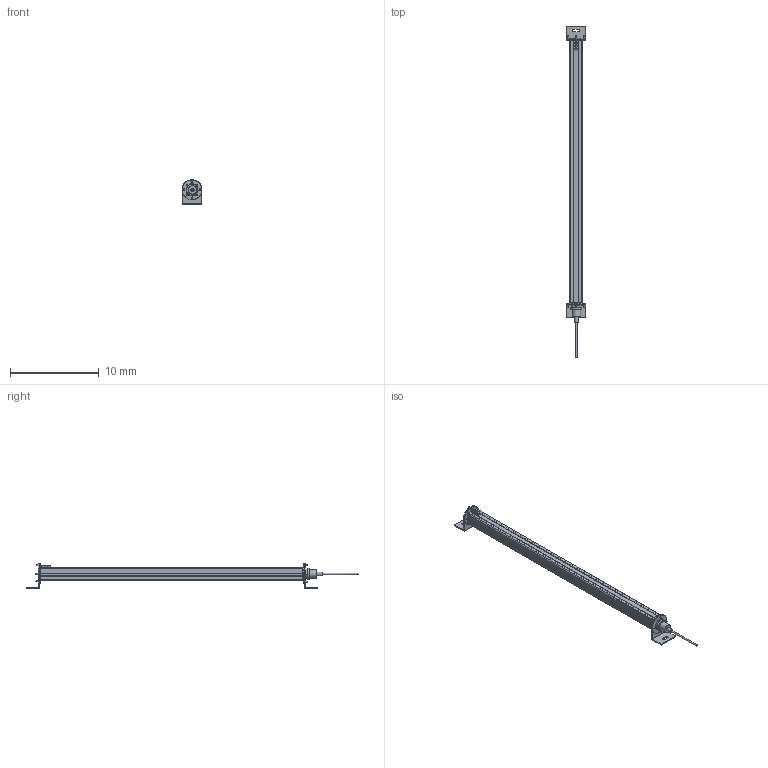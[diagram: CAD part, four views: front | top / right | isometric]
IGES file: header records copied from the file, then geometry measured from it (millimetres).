
Start section:  Autodesk DirectConnect version 7.0.27.0 ---- IGES version 5.3
Global section: file name: C:\ACADFILES\MG_PYLONS\CUSTOMER_FILES\MG-28-PYLON_3D_SMB.iges; native system: Autodesk DirectConnect 7.0.27.0; preprocessor: 7.0.27.0; author: ENGINEERMAIN; organization: Unknown; date: 20150810.133510; units: millimetre
Bounding box: 2.26 x 37.44 x 2.75 mm (x, y, z)
Surface area: 506.2 mm2 (no closed solid volume)
Topology: 0 solids, 0 shells, 771 faces, 3970 edges, 3969 vertices
Faces by surface type: bspline 771
